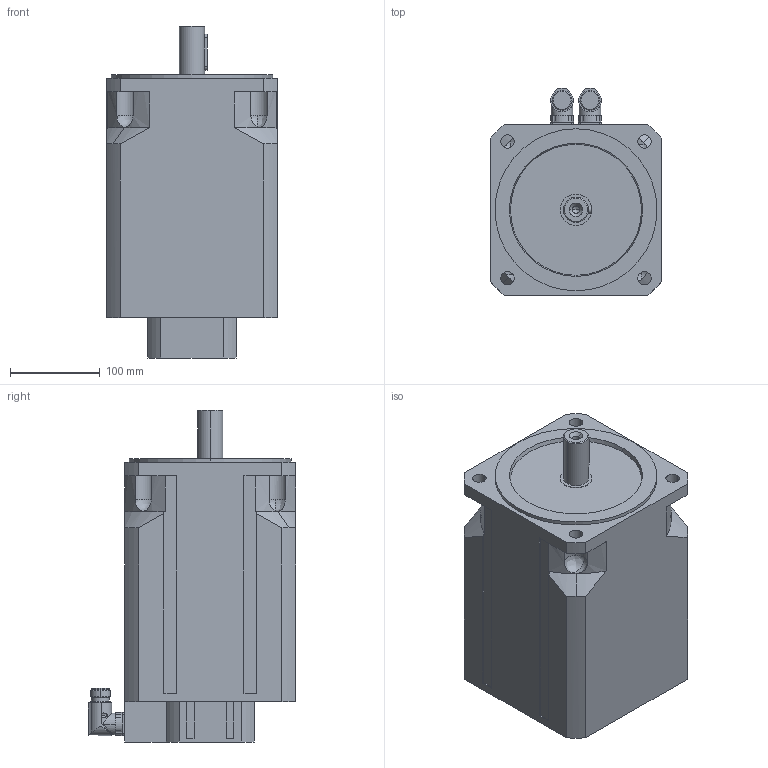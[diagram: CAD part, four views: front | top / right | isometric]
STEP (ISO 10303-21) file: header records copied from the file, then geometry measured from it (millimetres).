
FILE_DESCRIPTION(('STEP AP203'),'2;1');
FILE_NAME('MT7-3200_B.stp','2006-08-28T20:27:22',(''),(''),'2005.2.102','THINKDESIGN','');
FILE_SCHEMA(('CONFIG_CONTROL_DESIGN'));
Length unit declared in the file: millimetre
Bounding box: 190 x 230.5 x 369 mm (x, y, z)
Volume: 9922388.5 mm3; surface area: 325226.4 mm2
Topology: 3 solids, 3 shells, 275 faces, 749 edges, 481 vertices
Faces by surface type: cylinder 120, plane 107, bspline 48
Full cylindrical faces by diameter (mm): 20 x2
Entity records: 9842 total; most frequent: CARTESIAN_POINT 2891, ORIENTED_EDGE 1478, DIRECTION 1427, EDGE_CURVE 739, AXIS2_PLACEMENT_3D 539, VERTEX_POINT 481, VECTOR 349, LINE 349
